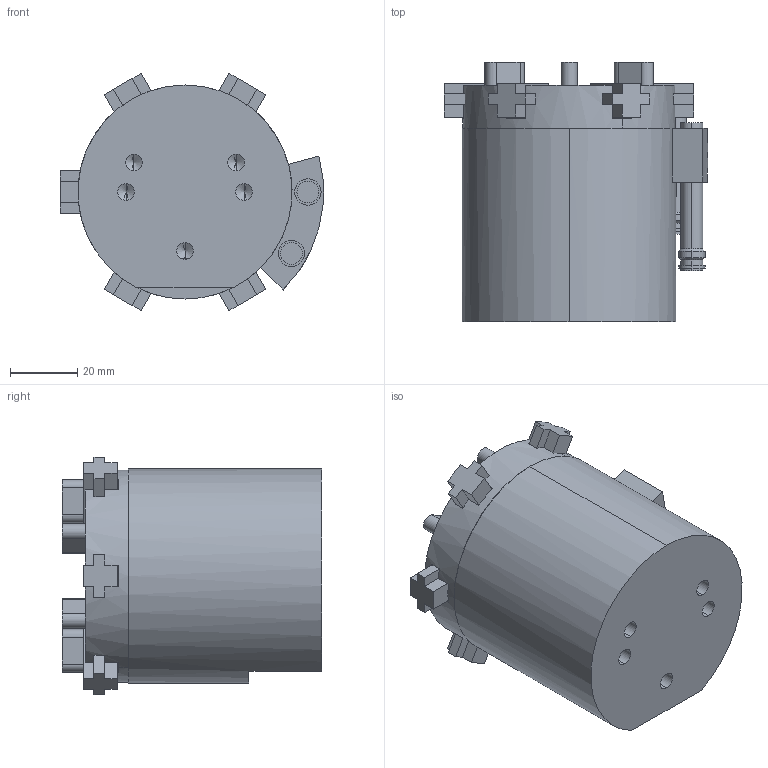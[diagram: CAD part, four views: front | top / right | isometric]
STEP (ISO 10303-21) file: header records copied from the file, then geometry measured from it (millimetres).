
FILE_DESCRIPTION (( 'STEP AP203' ), '1' );
FILE_NAME ('AGP-6-OR OPEN in MM.STEP', '2015-06-01T14:23:36', ( 'setup' ), ( '' ), 'SwSTEP 2.0', 'SolidWorks 2013', '' );
FILE_SCHEMA (( 'CONFIG_CONTROL_DESIGN' ));
Length unit declared in the file: millimetre
Products named in the file (8): AGP-6-OR SENSOR; AGP-6-OR RAIL; AGP-6-OR  NUT_91841A011; AGP-6-OR  JAW; AGP-6-OR OPEN in MM; AGP-6-OR  BODY; AGP-6-OR CAP; AGP-6-OR SENSOR BLOCK
Assembly tree (18 placements, depth 2):
  AGP-6-OR OPEN in MM
    AGP-6-OR  BODY
    AGP-6-OR CAP
    AGP-6-OR SENSOR BLOCK
    AGP-6-OR SENSOR  x2
    AGP-6-OR RAIL  x6
    AGP-6-OR  NUT_91841A011
    AGP-6-OR  JAW  x6
Bounding box: 78.12 x 76.96 x 70.44 mm (x, y, z)
Volume: 219532.5 mm3; surface area: 49848.6 mm2
Topology: 18 solids, 18 shells, 609 faces, 1511 edges, 900 vertices
Faces by surface type: plane 237, cylinder 203, cone 165, torus 4
Entity records: 10398 total; most frequent: CARTESIAN_POINT 1882, DIRECTION 1590, ORIENTED_EDGE 1512, EDGE_CURVE 756, AXIS2_PLACEMENT_3D 573, VERTEX_POINT 475, VECTOR 444, LINE 444
